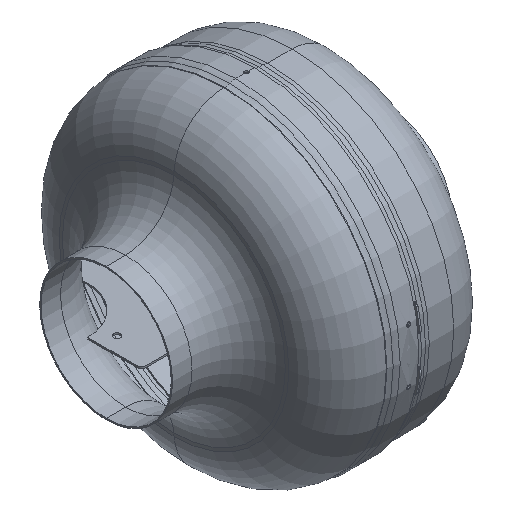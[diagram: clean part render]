
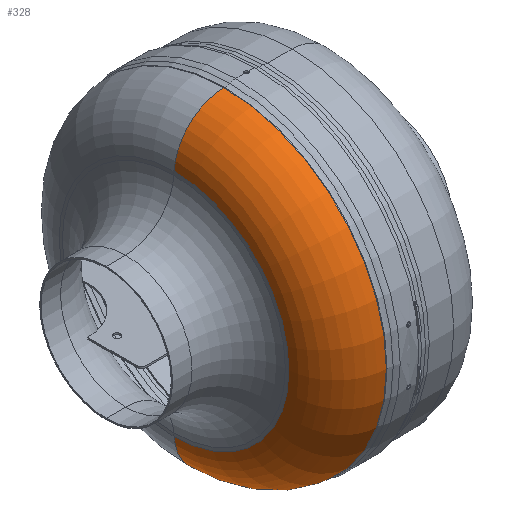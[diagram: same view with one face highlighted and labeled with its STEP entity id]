
A CAD part, isometric view. The second image highlights one B-rep face of the part: STEP entity #328.
In plain terms, the highlighted toroidal (fillet/blend) face has major radius 83 mm and minor radius 38 mm.
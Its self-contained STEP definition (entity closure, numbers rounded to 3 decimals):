
#328 = ADVANCED_FACE ( 'NONE', ( #5543 ), #5542, .T. ) ;
#537 = CIRCLE ( 'NONE', #6693, 120.992 ) ;
#555 = DIRECTION ( 'NONE',  ( 0., 0., -1. ) ) ;
#578 = DIRECTION ( 'NONE',  ( 0., -1., 0. ) ) ;
#1013 = CARTESIAN_POINT ( 'NONE',  ( -47.913, 0., 0. ) ) ;
#1033 = DIRECTION ( 'NONE',  ( 0., 0., 1. ) ) ;
#1034 = DIRECTION ( 'NONE',  ( 1., 0., 0. ) ) ;
#1067 = CARTESIAN_POINT ( 'NONE',  ( -10., 0., -83. ) ) ;
#1163 = EDGE_LOOP ( 'NONE', ( #1675, #1676, #1725, #1677 ) ) ;
#1254 = VERTEX_POINT ( 'NONE', #3778 ) ;
#1256 = VERTEX_POINT ( 'NONE', #3789 ) ;
#1258 = VERTEX_POINT ( 'NONE', #2874 ) ;
#1260 = VERTEX_POINT ( 'NONE', #3149 ) ;
#1675 = ORIENTED_EDGE ( 'NONE', *, *, #2096, .T. ) ;
#1676 = ORIENTED_EDGE ( 'NONE', *, *, #2094, .T. ) ;
#1677 = ORIENTED_EDGE ( 'NONE', *, *, #2026, .F. ) ;
#1725 = ORIENTED_EDGE ( 'NONE', *, *, #2248, .F. ) ;
#2026 = EDGE_CURVE ( 'NONE', #1256, #1258, #5877, .T. ) ;
#2094 = EDGE_CURVE ( 'NONE', #1254, #1260, #5959, .T. ) ;
#2096 = EDGE_CURVE ( 'NONE', #1256, #1254, #5961, .T. ) ;
#2248 = EDGE_CURVE ( 'NONE', #1258, #1260, #537, .T. ) ;
#2685 = DIRECTION ( 'NONE',  ( 1., 0., 0. ) ) ;
#2698 = DIRECTION ( 'NONE',  ( 0., 0., 1. ) ) ;
#2759 = CARTESIAN_POINT ( 'NONE',  ( -10., 0., 0. ) ) ;
#2874 = CARTESIAN_POINT ( 'NONE',  ( -10.783, 0., 120.992 ) ) ;
#3149 = CARTESIAN_POINT ( 'NONE',  ( -10.783, 0., -120.992 ) ) ;
#3217 = DIRECTION ( 'NONE',  ( 0., 0., 1. ) ) ;
#3454 = CARTESIAN_POINT ( 'NONE',  ( -10., 0., 83. ) ) ;
#3468 = DIRECTION ( 'NONE',  ( 0., 1., 0. ) ) ;
#3778 = CARTESIAN_POINT ( 'NONE',  ( -47.913, 0., -85.565 ) ) ;
#3789 = CARTESIAN_POINT ( 'NONE',  ( -47.913, 0., 85.565 ) ) ;
#5542 = TOROIDAL_SURFACE ( 'NONE', #6570, 83., 38. ) ;
#5543 = FACE_OUTER_BOUND ( 'NONE', #1163, .T. ) ;
#5877 = CIRCLE ( 'NONE', #6475, 38. ) ;
#5959 = CIRCLE ( 'NONE', #6653, 38. ) ;
#5961 = CIRCLE ( 'NONE', #6673, 85.565 ) ;
#6475 = AXIS2_PLACEMENT_3D ( 'NONE', #3454, #3468, #3217 ) ;
#6570 = AXIS2_PLACEMENT_3D ( 'NONE', #2759, #2685, #2698 ) ;
#6653 = AXIS2_PLACEMENT_3D ( 'NONE', #1067, #578, #555 ) ;
#6673 = AXIS2_PLACEMENT_3D ( 'NONE', #1013, #1034, #1033 ) ;
#6693 = AXIS2_PLACEMENT_3D ( 'NONE', #6816, #6815, #6814 ) ;
#6814 = DIRECTION ( 'NONE',  ( 0., 0., 1. ) ) ;
#6815 = DIRECTION ( 'NONE',  ( 1., 0., 0. ) ) ;
#6816 = CARTESIAN_POINT ( 'NONE',  ( -10.783, 0., 0. ) ) ;
